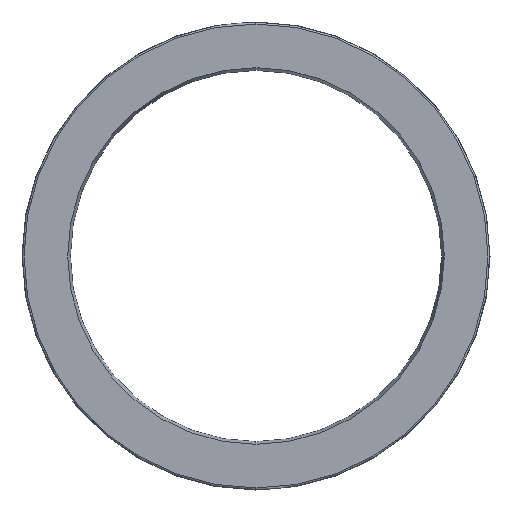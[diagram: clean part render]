
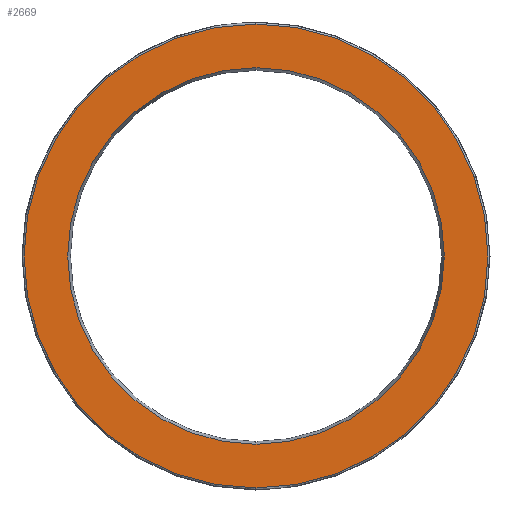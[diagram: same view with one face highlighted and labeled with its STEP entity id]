
A CAD part, left-side view. The second image highlights one B-rep face of the part: STEP entity #2669.
In plain terms, the highlighted planar face has unit normal (-1, 0, 0).
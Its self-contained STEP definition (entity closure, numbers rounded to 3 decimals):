
#758 = CARTESIAN_POINT ( 'NONE',  ( -6.706, 32.923, -3.337 ) ) ;
#1152 = AXIS2_PLACEMENT_3D ( 'NONE', #16058, #5937, #12050 ) ;
#1307 = DIRECTION ( 'NONE',  ( 0., 0., -1. ) ) ;
#1983 = AXIS2_PLACEMENT_3D ( 'NONE', #10917, #5852, #19945 ) ;
#2047 = ORIENTED_EDGE ( 'NONE', *, *, #12805, .T. ) ;
#2669 = ADVANCED_FACE ( 'NONE', ( #8002, #16382 ), #22475, .F. ) ;
#3114 = CARTESIAN_POINT ( 'NONE',  ( -6.706, 1.473, 22.027 ) ) ;
#3747 = EDGE_CURVE ( 'NONE', #16078, #21545, #7153, .T. ) ;
#4073 = AXIS2_PLACEMENT_3D ( 'NONE', #758, #10896, #13037 ) ;
#5852 = DIRECTION ( 'NONE',  ( -1., 0., 0. ) ) ;
#5937 = DIRECTION ( 'NONE',  ( 1., 0., 0. ) ) ;
#7153 = CIRCLE ( 'NONE', #13075, 31.25 ) ;
#8002 = FACE_BOUND ( 'NONE', #14624, .T. ) ;
#8037 = ORIENTED_EDGE ( 'NONE', *, *, #22923, .T. ) ;
#8673 = VERTEX_POINT ( 'NONE', #3114 ) ;
#10471 = AXIS2_PLACEMENT_3D ( 'NONE', #14136, #17712, #1307 ) ;
#10521 = CARTESIAN_POINT ( 'NONE',  ( -6.706, 1.473, -34.587 ) ) ;
#10896 = DIRECTION ( 'NONE',  ( 1., 0., 0. ) ) ;
#10917 = CARTESIAN_POINT ( 'NONE',  ( -6.706, 1.473, -3.337 ) ) ;
#12050 = DIRECTION ( 'NONE',  ( 0., 0., -1. ) ) ;
#12103 = DIRECTION ( 'NONE',  ( -1., 0., 0. ) ) ;
#12628 = EDGE_LOOP ( 'NONE', ( #26304, #8037 ) ) ;
#12805 = EDGE_CURVE ( 'NONE', #18074, #8673, #22848, .T. ) ;
#13037 = DIRECTION ( 'NONE',  ( 0., 0., -1. ) ) ;
#13075 = AXIS2_PLACEMENT_3D ( 'NONE', #22579, #12103, #24206 ) ;
#13530 = CIRCLE ( 'NONE', #1983, 31.25 ) ;
#14136 = CARTESIAN_POINT ( 'NONE',  ( -6.706, 1.473, -3.337 ) ) ;
#14624 = EDGE_LOOP ( 'NONE', ( #17594, #2047 ) ) ;
#16058 = CARTESIAN_POINT ( 'NONE',  ( -6.706, 1.473, -3.337 ) ) ;
#16078 = VERTEX_POINT ( 'NONE', #10521 ) ;
#16382 = FACE_OUTER_BOUND ( 'NONE', #12628, .T. ) ;
#16757 = EDGE_CURVE ( 'NONE', #8673, #18074, #22771, .T. ) ;
#17594 = ORIENTED_EDGE ( 'NONE', *, *, #16757, .T. ) ;
#17712 = DIRECTION ( 'NONE',  ( 1., 0., 0. ) ) ;
#18074 = VERTEX_POINT ( 'NONE', #26248 ) ;
#19945 = DIRECTION ( 'NONE',  ( 0., 0., -1. ) ) ;
#21545 = VERTEX_POINT ( 'NONE', #22279 ) ;
#22279 = CARTESIAN_POINT ( 'NONE',  ( -6.706, 1.473, 27.913 ) ) ;
#22475 = PLANE ( 'NONE',  #4073 ) ;
#22579 = CARTESIAN_POINT ( 'NONE',  ( -6.706, 1.473, -3.337 ) ) ;
#22771 = CIRCLE ( 'NONE', #10471, 25.364 ) ;
#22848 = CIRCLE ( 'NONE', #1152, 25.364 ) ;
#22923 = EDGE_CURVE ( 'NONE', #21545, #16078, #13530, .T. ) ;
#24206 = DIRECTION ( 'NONE',  ( 0., 0., -1. ) ) ;
#26248 = CARTESIAN_POINT ( 'NONE',  ( -6.706, 1.473, -28.701 ) ) ;
#26304 = ORIENTED_EDGE ( 'NONE', *, *, #3747, .T. ) ;
